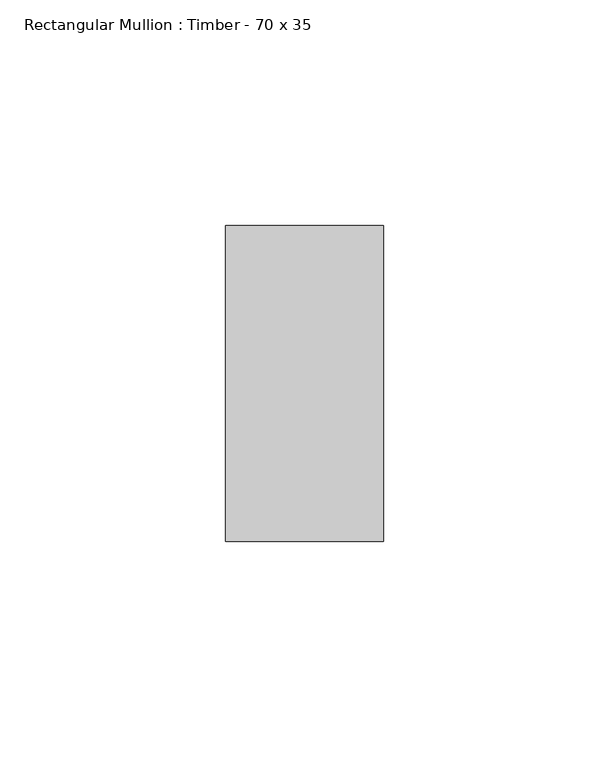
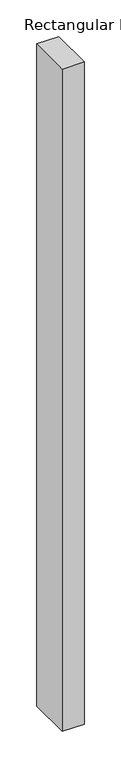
"""IFC4 building model written with IfcOpenShell, lengths in millimetres: member geometry, Rectangular Mullion : Timber - 70 x 35."""

from ifc_helpers import new_model, si_unit, frame, origin, place, context, project, spatial, polyline, outline, extrude, source, transform, mapped, element, save


def rectangular_mullion_timber_70_x_35_2d2b050c(model_context):
    return source(origin(), model_context, "Body", "SweptSolid", [
        extrude(outline(polyline([(17.5, 0.0), (17.5, -70.0), (-17.5, -70.0), (-17.5, 0.0), (17.5, 0.0)])), frame((0.0, 0.0, -1107.1428571), z_axis=(0.0, 0.0, 1.0), x_axis=(1.0, 0.0, 0.0)), (0.0, 0.0, 1.0), 1107.1428571),
    ])


if __name__ == "__main__":
    model = new_model("IFC4")
    model_context = context("Model", 3, world=origin())
    ifc_project = project(units=[si_unit("LENGTHUNIT", "METRE", prefix="MILLI")], contexts=[model_context])
    site = spatial("IfcSite", under=ifc_project)
    building = spatial("IfcBuilding", under=site)
    placement = place(None, origin())
    rectangular_mullion_timber_70_x_35_shape = rectangular_mullion_timber_70_x_35_2d2b050c(model_context)
    element("IfcMember", 1, ObjectType="Rectangular Mullion : Timber - 70 x 35", at=placement, inside=building, context=model_context, shape_type="MappedRepresentation", body=[
        mapped(rectangular_mullion_timber_70_x_35_shape, transform((0.0, 0.0, 0.0), x_axis=(1.0, 0.0, 0.0), y_axis=(0.0, 1.0, 0.0), z_axis=(0.0, 0.0, 1.0))),
    ])
    save(model, "model.ifc")
